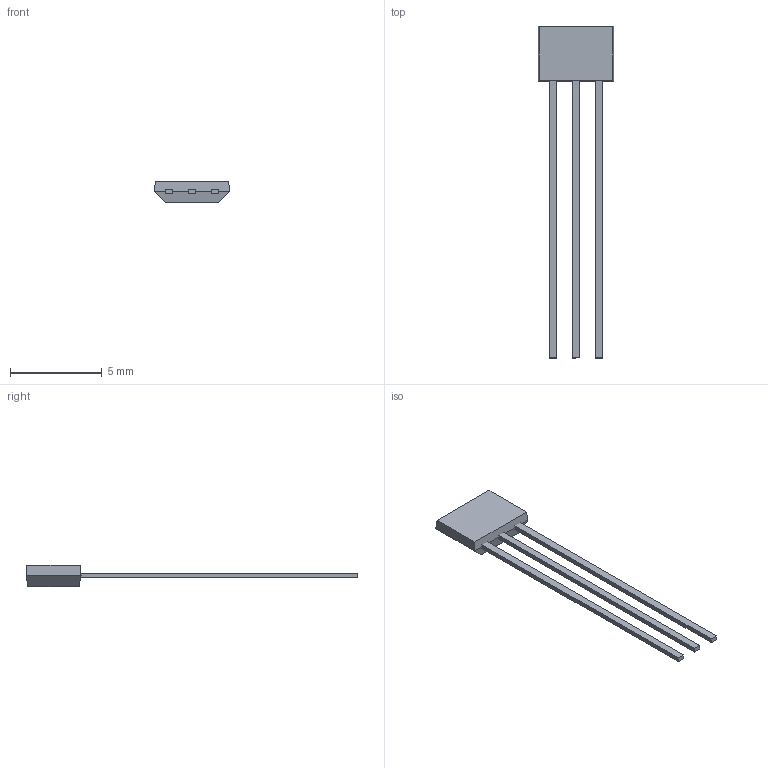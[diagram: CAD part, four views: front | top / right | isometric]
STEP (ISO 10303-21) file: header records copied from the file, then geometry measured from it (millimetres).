
FILE_DESCRIPTION (( 'STEP AP203' ), '1' );
FILE_NAME ('eq733.step', '2026-06-05T03:32:58', ( '' ), ( '' ), 'SwSTEP 2.0', 'SolidWorks 2024', '' );
FILE_SCHEMA (( 'CONFIG_CONTROL_DESIGN' ));
Length unit declared in the file: millimetre
Products named in the file (1): eq733
Bounding box: 4.1 x 18.1 x 1.15 mm (x, y, z)
Volume: 17.2 mm3; surface area: 96.7 mm2
Topology: 5 solids, 5 shells, 32 faces, 62 edges, 40 vertices
Faces by surface type: plane 30, cylinder 2
Entity records: 867 total; most frequent: CARTESIAN_POINT 135, DIRECTION 132, ORIENTED_EDGE 124, EDGE_CURVE 62, VECTOR 58, LINE 58, VERTEX_POINT 40, AXIS2_PLACEMENT_3D 37
